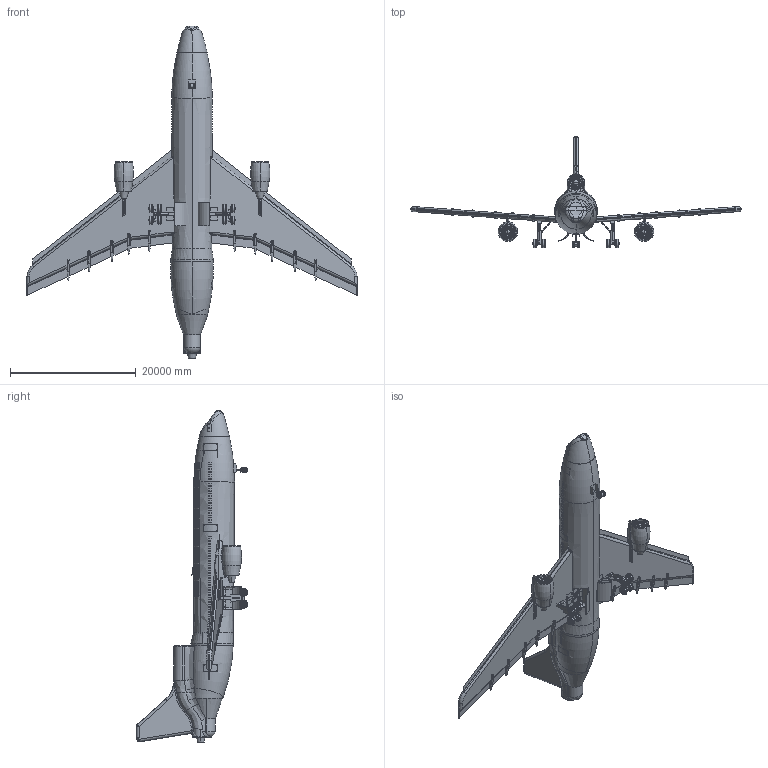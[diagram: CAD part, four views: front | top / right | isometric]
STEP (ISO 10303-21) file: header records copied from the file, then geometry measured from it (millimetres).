
FILE_DESCRIPTION (( 'STEP AP203' ), '1' );
FILE_NAME ('Jetliner-Part.STEP', '2012-11-06T22:31:05', ( 'Tommy' ), ( '' ), 'SwSTEP 2.0', 'SolidWorks 2012', '' );
FILE_SCHEMA (( 'CONFIG_CONTROL_DESIGN' ));
Products named in the file (1): Jetliner-Part
Bounding box: 52752.86 x 17726.83 x 52896.38 mm (x, y, z)
Volume: 1175377112955.2 mm3; surface area: 3680265807.5 mm2
Topology: 1 solids, 3 shells, 4471 faces, 10800 edges, 6806 vertices
Faces by surface type: plane 1771, bspline 1397, cylinder 928, torus 321, cone 40, sphere 14
Entity records: 380221 total; most frequent: CARTESIAN_POINT 291458, ORIENTED_EDGE 21396, DIRECTION 13290, EDGE_CURVE 10698, VERTEX_POINT 6806, EDGE_LOOP 5060, AXIS2_PLACEMENT_3D 4975, FACE_OUTER_BOUND 4471
